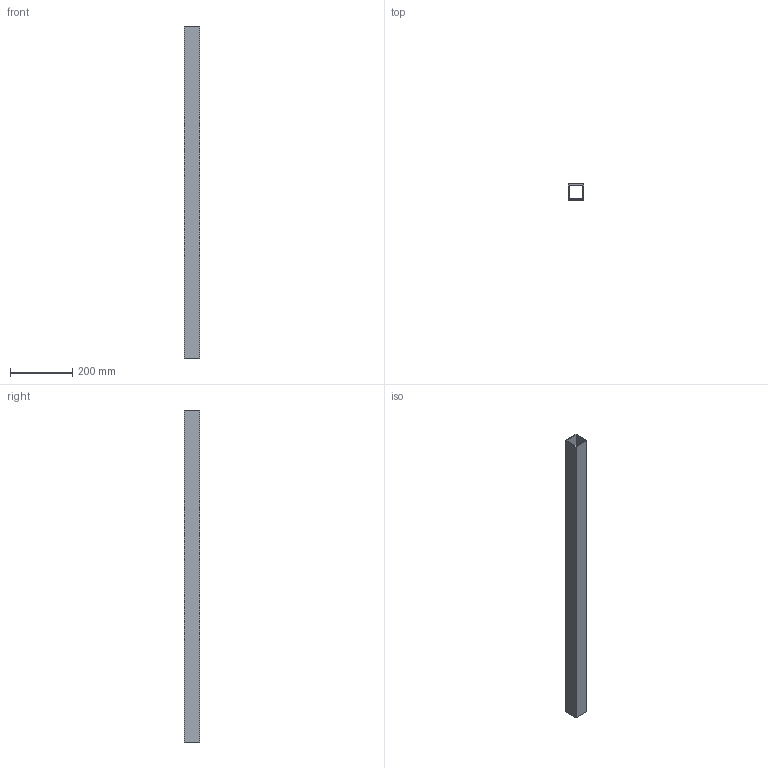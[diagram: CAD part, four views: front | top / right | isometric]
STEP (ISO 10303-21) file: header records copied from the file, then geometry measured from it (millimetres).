
FILE_DESCRIPTION(('Open CASCADE Model'),'2;1');
FILE_NAME('Open CASCADE Shape Model','2026-10-15T15:10:04',('Author'),( 'Open CASCADE'),'Open CASCADE STEP processor 8.0','Open CASCADE 8.0' ,'Unknown');
FILE_SCHEMA(('AUTOMOTIVE_DESIGN { 1 0 10303 214 1 1 1 1 }'));
Length unit declared in the file: millimetre
Products named in the file (1): SHS50x50x4_L1070000_P05 23
Bounding box: 50 x 50 x 1070 mm (x, y, z)
Volume: 787520 mm3; surface area: 395232 mm2
Topology: 1 solids, 1 shells, 10 faces, 24 edges, 16 vertices
Faces by surface type: plane 10
Entity records: 614 total; most frequent: CARTESIAN_POINT 99, DIRECTION 94, LINE 72, VECTOR 72, ORIENTED_EDGE 48, PCURVE 48, DEFINITIONAL_REPRESENTATION 48, EDGE_CURVE 24
